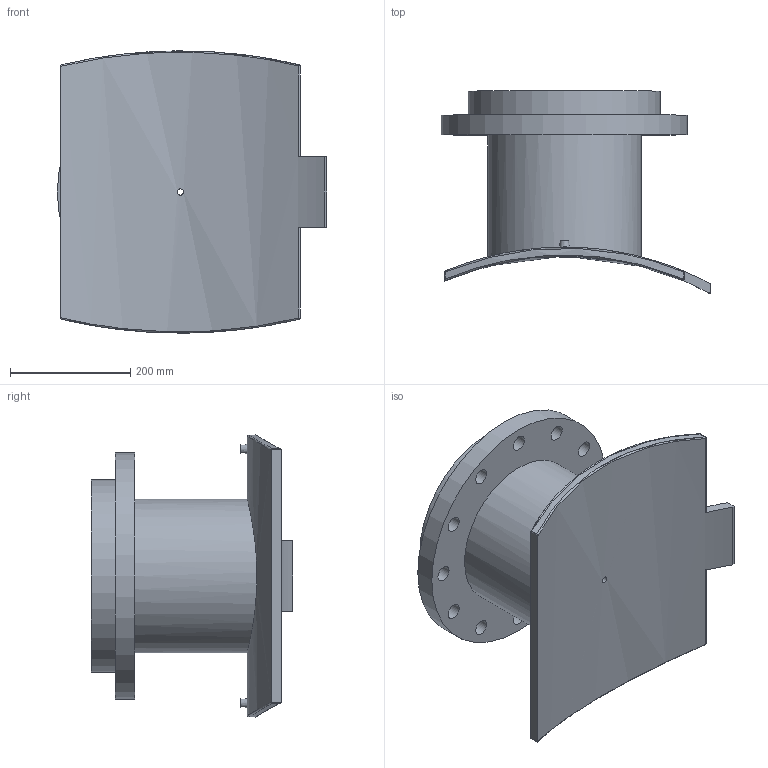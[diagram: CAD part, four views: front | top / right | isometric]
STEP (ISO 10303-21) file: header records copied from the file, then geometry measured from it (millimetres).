
FILE_DESCRIPTION(/* description */ ('PLASSON FLANGED BRANCH SADDLE 1000X250'),/* implementation_level */ '2;1');
FILE_NAME(/* name */ 'C:\Dropbox\KIMPROJECTS-Inventor 2019\99-16-3568-Processing\ElectroFusion Fittings\495904_495903\stp\4959031000250T.stp',/* time_stamp */ '2024-04-03T21:04:20+02:00',/* author */ ('KIM'),/* organization */ (''),/* preprocessor_version */ 'ST-DEVELOPER v17.2',/* originating_system */ 'Autodesk Inventor 2019',/* authorisation */ '');
FILE_SCHEMA (('AUTOMOTIVE_DESIGN { 1 0 10303 214 3 1 1 }'));
Length unit declared in the file: millimetre
Products named in the file (1): 4959031000250T
Bounding box: 448.65 x 336.28 x 469.58 mm (x, y, z)
Volume: 11511870 mm3; surface area: 1017243.1 mm2
Topology: 1 solids, 1 shells, 62 faces, 163 edges, 126 vertices
Faces by surface type: cylinder 35, plane 17, sphere 4, bspline 4, cone 2
Full cylindrical faces by diameter (mm): 4 x2, 10 x2, 10.4 x1, 16 x1, 26 x12, 204 x1, 256 x1, 320 x1, 410 x1
Entity records: 2583 total; most frequent: CARTESIAN_POINT 955, DIRECTION 325, ORIENTED_EDGE 298, EDGE_CURVE 149, AXIS2_PLACEMENT_3D 137, VERTEX_POINT 100, EDGE_LOOP 99, CIRCLE 78
